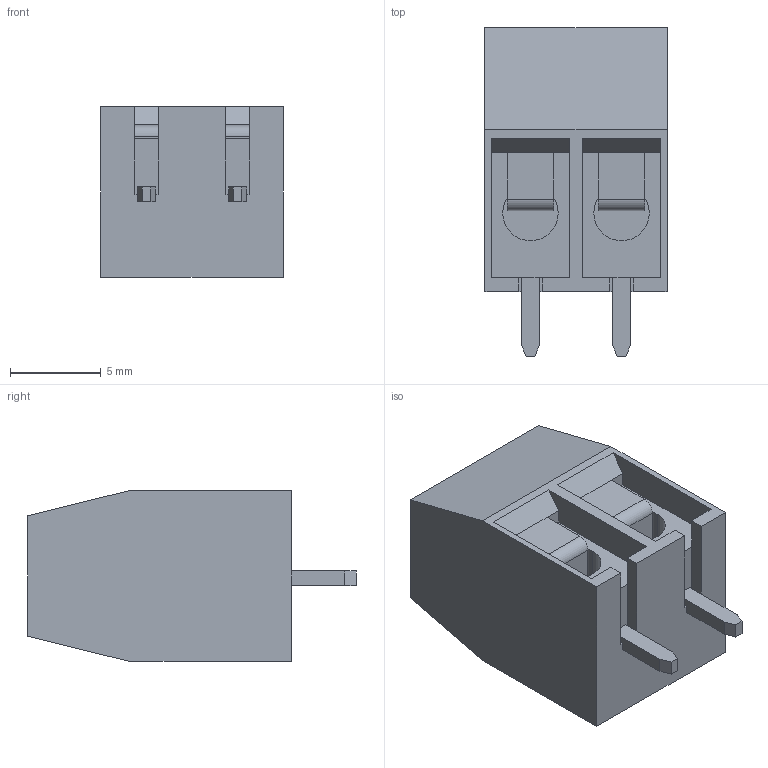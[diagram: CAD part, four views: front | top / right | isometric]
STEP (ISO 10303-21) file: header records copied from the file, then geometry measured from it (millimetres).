
FILE_DESCRIPTION((''),'2;1');
FILE_NAME('395932002','2015-02-25T',('me'),(''),'PRO/ENGINEER BY PARAMETRIC TECHNOLOGY CORPORATION, 2011490','PRO/ENGINEER BY PARAMETRIC TECHNOLOGY CORPORATION, 2011490','');
FILE_SCHEMA(('CONFIG_CONTROL_DESIGN'));
Length unit declared in the file: inch
Products named in the file (1): 395932002
Bounding box: 10.01 x 18.06 x 9.4 mm (x, y, z)
Volume: 1077.7 mm3; surface area: 1086.6 mm2
Topology: 1 solids, 1 shells, 114 faces, 306 edges, 204 vertices
Faces by surface type: plane 74, cylinder 20, torus 16, cone 4
Entity records: 3609 total; most frequent: CARTESIAN_POINT 677, DIRECTION 600, ORIENTED_EDGE 596, EDGE_CURVE 298, VECTOR 210, LINE 210, AXIS2_PLACEMENT_3D 195, VERTEX_POINT 192
